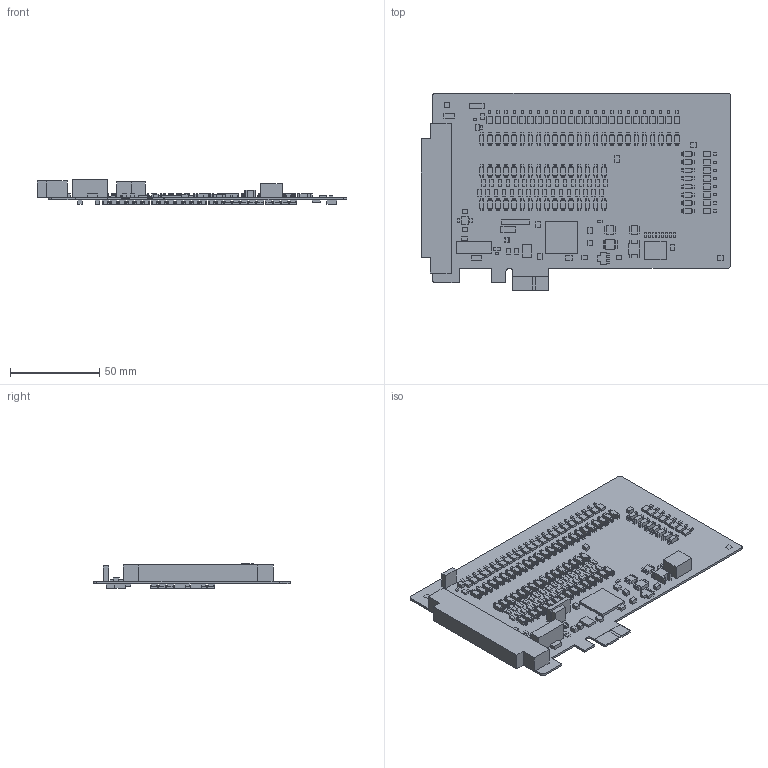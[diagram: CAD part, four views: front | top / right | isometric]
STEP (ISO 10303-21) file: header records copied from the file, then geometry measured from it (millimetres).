
FILE_DESCRIPTION (( 'STEP AP203' ), '1' );
FILE_NAME ('st_20190522_1743_4251068.STEP', '2019-05-22T09:52:57', ( '' ), ( '' ), 'SwSTEP 2.0', 'SolidWorks 2018', '' );
FILE_SCHEMA (( 'CONFIG_CONTROL_DESIGN' ));
Length unit declared in the file: millimetre
Products named in the file (32): FIDUCIAL_0060000001; TVS0805_1305512140; LED_0603_1304100640; FUSE1812_1290000222; SOT23_1310003898; SCSI100H_16545A0301; HD_3X1P_100_D_1653003100; C2211_1100003190; C1210_H87_1100006569; R0805_1019751107; SOIC_8P_50_208X311_1410021154; st_20190522_1743_4251068; L0805_1212302010; SOIC_8P_50_193X236_14S4070620; C_2P_127_138X110_1100000120; ACM3225_1212306000; DIODE_2P_175_213X155_1300000058; DCPWR_4P_768X240_D_1250001809; SOIC_4P_50_102X276_1410008519; SOIC_8P_50_193X236_1410003201; HD_6X1P_100_D_1653006100; GFPCIEXPSX1_0040000018; BGA_324P_31_591X591_1410021380; SOT23_5P_1410021522; TVS0805_1305512144; SW_4X2P_100_461X382_D_1600000400; SOT223_1310003653; SW_4P_236X236_H169_1600000007; DIODE_2P_103_98X53_1300001693; R0207_1000009203; OSC_4P_200_283X205_H56_1233001444
Assembly tree (313 placements, depth 2):
  st_20190522_1743_4251068
    st_20190522_1743_4251068
    SOT223_1310003653
    OSC_4P_200_283X205_H56_1233001444
    SW_4P_236X236_H169_1600000007
    SOIC_8P_50_193X236_14S4070620
    SOIC_8P_50_193X236_1410003201
    R0207_1000009203  x33
    FUSE1812_1290000222  x32
    DCPWR_4P_768X240_D_1250001809
    DIODE_2P_175_213X155_1300000058  x32
    HD_3X1P_100_D_1653003100  x2
    R0805_1019751107
    SOIC_8P_50_208X311_1410021154
    C2211_1100003190  x2
    C1210_H87_1100006569  x11
    C_2P_127_138X110_1100000120  x4
    DIODE_2P_103_98X53_1300001693  x33
    TVS0805_1305512140
    TVS0805_1305512144  x34
    L0805_1212302010  x3
    LED_0603_1304100640  x9
    SOT23_1310003898  x32
    ACM3225_1212306000
    SOIC_4P_50_102X276_1410008519  x65
    SOT23_5P_1410021522
    HD_6X1P_100_D_1653006100
    SW_4X2P_100_461X382_D_1600000400
    SCSI100H_16545A0301
    BGA_324P_31_591X591_1410021380
    FIDUCIAL_0060000001  x4
    GFPCIEXPSX1_0040000018
Bounding box: 173.92 x 111.15 x 13.84 mm (x, y, z)
Volume: 43745.5 mm3; surface area: 59852.4 mm2
Topology: 313 solids, 313 shells, 3417 faces, 8373 edges, 5582 vertices
Faces by surface type: plane 3161, cylinder 256
Entity records: 35217 total; most frequent: DIRECTION 4463, CARTESIAN_POINT 4212, ORIENTED_EDGE 3834, EDGE_CURVE 1917, AXIS2_PLACEMENT_3D 1529, VECTOR 1405, LINE 1405, VERTEX_POINT 1278
